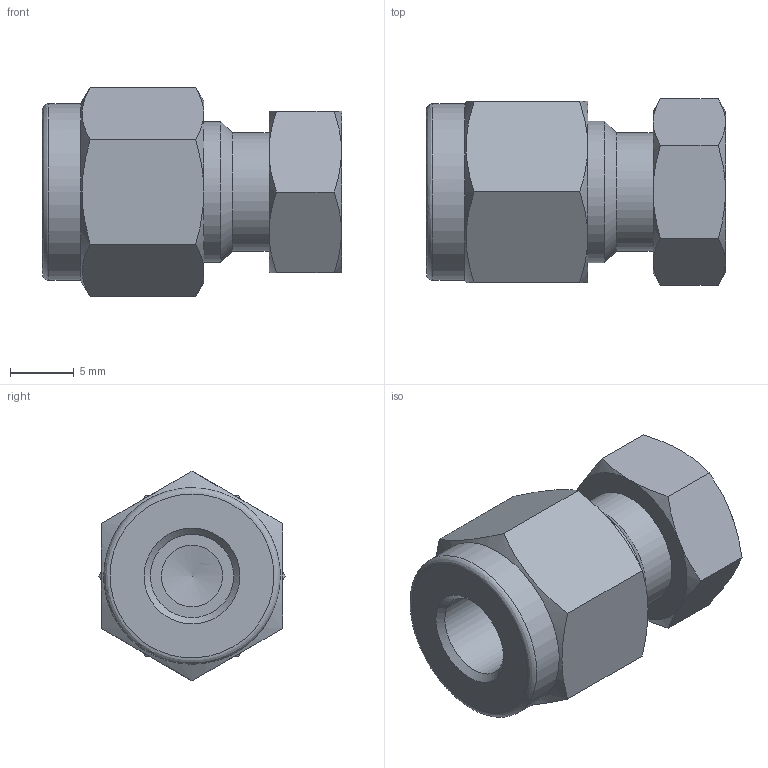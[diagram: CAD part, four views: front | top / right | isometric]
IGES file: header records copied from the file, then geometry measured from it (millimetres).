
Global section: file name: SC-4; native system: Autodesk Inventor 2016; preprocessor: unknown; author: DESIGNPC2; date: 20160312.131813; units: millimetre
Bounding box: 23.54 x 14.66 x 16.5 mm (x, y, z)
Volume: 2778.6 mm3; surface area: 1819.7 mm2
Topology: 1 solids, 1 shells, 46 faces, 112 edges, 71 vertices
Faces by surface type: bspline 46
